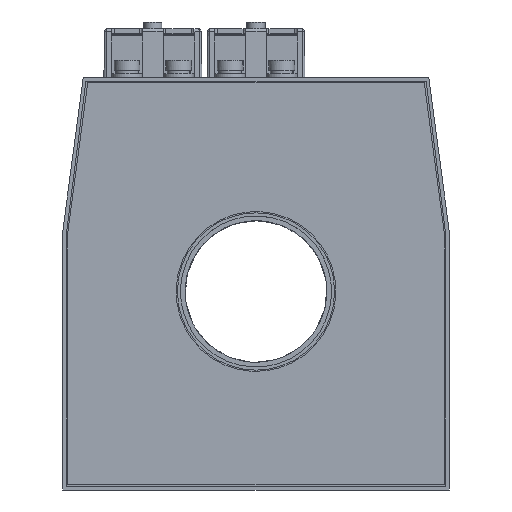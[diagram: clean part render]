
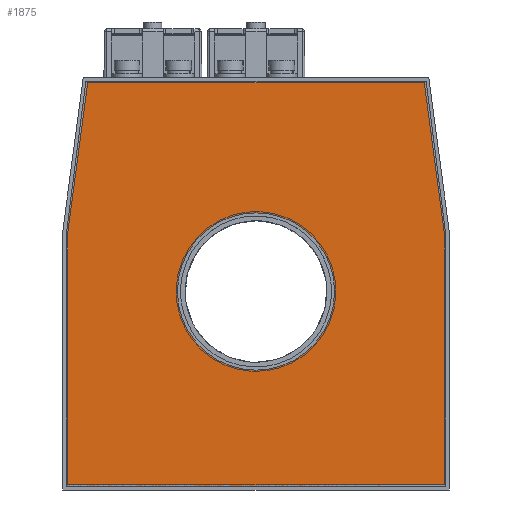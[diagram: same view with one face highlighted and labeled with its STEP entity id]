
A CAD part, top view. The second image highlights one B-rep face of the part: STEP entity #1875.
In plain terms, the highlighted planar face has unit normal (0, 0, 1).
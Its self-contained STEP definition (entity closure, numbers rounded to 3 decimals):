
#1875=ADVANCED_FACE('',(#3713,#3715),#3717,.T.);
#3713=FACE_BOUND('',#3714,.T.);
#3714=EDGE_LOOP('',(#5874,#5875,#5876,#5877,#5878,#5879));
#3715=FACE_BOUND('',#3716,.T.);
#3716=EDGE_LOOP('',(#5880));
#3717=PLANE('',#3718);
#3718=AXIS2_PLACEMENT_3D('',#3719,#3720,#3721);
#3719=CARTESIAN_POINT('',(0.,0.,5.));
#3720=DIRECTION('',(0.,0.,1.));
#3721=DIRECTION('',(1.,0.,0.));
#5874=ORIENTED_EDGE('',*,*,#6545,.T.);
#5875=ORIENTED_EDGE('',*,*,#6546,.T.);
#5876=ORIENTED_EDGE('',*,*,#6547,.T.);
#5877=ORIENTED_EDGE('',*,*,#6548,.T.);
#5878=ORIENTED_EDGE('',*,*,#6549,.T.);
#5879=ORIENTED_EDGE('',*,*,#6550,.T.);
#5880=ORIENTED_EDGE('',*,*,#6551,.T.);
#6545=EDGE_CURVE('',#7074,#7075,#7076,.T.);
#6546=EDGE_CURVE('',#7075,#7077,#7078,.T.);
#6547=EDGE_CURVE('',#7077,#7079,#7080,.T.);
#6548=EDGE_CURVE('',#7079,#7081,#7082,.T.);
#6549=EDGE_CURVE('',#7081,#7083,#7084,.T.);
#6550=EDGE_CURVE('',#7083,#7074,#7085,.T.);
#6551=EDGE_CURVE('',#7086,#7086,#7087,.F.);
#7074=VERTEX_POINT('',#8155);
#7075=VERTEX_POINT('',#8156);
#7076=LINE('',#8157,#8158);
#7077=VERTEX_POINT('',#8160);
#7078=LINE('',#8161,#8162);
#7079=VERTEX_POINT('',#8164);
#7080=LINE('',#8165,#8166);
#7081=VERTEX_POINT('',#8168);
#7082=LINE('',#8169,#8170);
#7083=VERTEX_POINT('',#8172);
#7084=LINE('',#8173,#8174);
#7085=LINE('',#8176,#8177);
#7086=VERTEX_POINT('',#8179);
#7087=CIRCLE('',#8180,30.5);
#8155=CARTESIAN_POINT('',(-73.5,19.815,5.));
#8156=CARTESIAN_POINT('',(-73.5,-78.5,5.));
#8157=CARTESIAN_POINT('',(-73.5,19.815,5.));
#8158=VECTOR('',#8159,1.);
#8159=DIRECTION('',(0.,-1.,0.));
#8160=CARTESIAN_POINT('',(73.5,-78.5,5.));
#8161=CARTESIAN_POINT('',(-73.5,-78.5,5.));
#8162=VECTOR('',#8163,1.);
#8163=DIRECTION('',(1.,0.,0.));
#8164=CARTESIAN_POINT('',(73.5,19.815,5.));
#8165=CARTESIAN_POINT('',(73.5,-78.5,5.));
#8166=VECTOR('',#8167,1.);
#8167=DIRECTION('',(0.,1.,0.));
#8168=CARTESIAN_POINT('',(66.,78.5,5.));
#8169=CARTESIAN_POINT('',(73.5,19.815,5.));
#8170=VECTOR('',#8171,1.);
#8171=DIRECTION('',(-0.127,0.992,0.));
#8172=CARTESIAN_POINT('',(-66.,78.5,5.));
#8173=CARTESIAN_POINT('',(66.,78.5,5.));
#8174=VECTOR('',#8175,1.);
#8175=DIRECTION('',(-1.,0.,0.));
#8176=CARTESIAN_POINT('',(-66.,78.5,5.));
#8177=VECTOR('',#8178,1.);
#8178=DIRECTION('',(-0.127,-0.992,0.));
#8179=CARTESIAN_POINT('',(30.5,-3.,5.));
#8180=AXIS2_PLACEMENT_3D('',#8181,#8182,#8183);
#8181=CARTESIAN_POINT('',(0.,-3.,5.));
#8182=DIRECTION('',(0.,0.,1.));
#8183=DIRECTION('',(1.,0.,0.));
